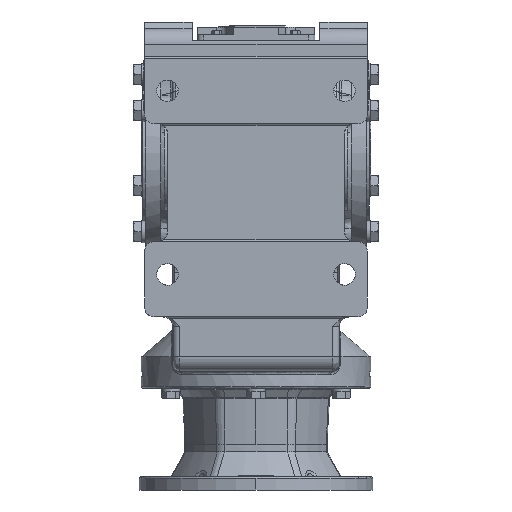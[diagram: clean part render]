
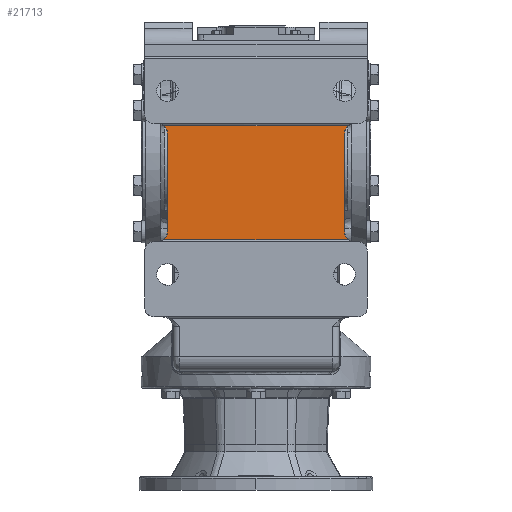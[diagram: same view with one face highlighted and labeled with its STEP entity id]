
A CAD part, front view. The second image highlights one B-rep face of the part: STEP entity #21713.
In plain terms, the highlighted planar face has unit normal (0, -1, 0).
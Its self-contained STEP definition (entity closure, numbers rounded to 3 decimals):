
#13203 = AXIS2_PLACEMENT_3D ( 'NONE', #55642, #55643, #55644 ) ;
#13211 = AXIS2_PLACEMENT_3D ( 'NONE', #55694, #55695, #55696 ) ;
#13213 = AXIS2_PLACEMENT_3D ( 'NONE', #55699, #55700, #55701 ) ;
#15834 = EDGE_CURVE ( 'NONE', #54400, #22197, #86642, .T. ) ;
#15856 = EDGE_CURVE ( 'NONE', #54396, #54400, #86657, .T. ) ;
#15858 = EDGE_CURVE ( 'NONE', #54396, #54422, #86660, .T. ) ;
#15860 = EDGE_CURVE ( 'NONE', #54422, #54424, #86658, .T. ) ;
#15863 = EDGE_CURVE ( 'NONE', #54424, #54426, #86663, .T. ) ;
#21713 = ADVANCED_FACE ( 'NONE', ( #27156 ), #73052, .F. ) ;
#22197 = VERTEX_POINT ( 'NONE', #84482 ) ;
#22200 = VERTEX_POINT ( 'NONE', #84479 ) ;
#27156 = FACE_OUTER_BOUND ( 'NONE', #51284, .T. ) ;
#34905 = CARTESIAN_POINT ( 'NONE',  ( 135., -310., 30. ) ) ;
#34907 = CARTESIAN_POINT ( 'NONE',  ( 135., -310., -120. ) ) ;
#34915 = CARTESIAN_POINT ( 'NONE',  ( -141., -310., 42. ) ) ;
#34919 = CARTESIAN_POINT ( 'NONE',  ( 141., -310., 42. ) ) ;
#34920 = CARTESIAN_POINT ( 'NONE',  ( -135., -310., 30. ) ) ;
#41169 = AXIS2_PLACEMENT_3D ( 'NONE', #73047, #73055, #73056 ) ;
#51284 = EDGE_LOOP ( 'NONE', ( #65648, #65651, #65653, #65655, #65657, #65659, #65661, #65665 ) ) ;
#54396 = VERTEX_POINT ( 'NONE', #34905 ) ;
#54400 = VERTEX_POINT ( 'NONE', #34907 ) ;
#54422 = VERTEX_POINT ( 'NONE', #34919 ) ;
#54424 = VERTEX_POINT ( 'NONE', #34915 ) ;
#54426 = VERTEX_POINT ( 'NONE', #34920 ) ;
#55642 = CARTESIAN_POINT ( 'NONE',  ( 150., -310., -120. ) ) ;
#55643 = DIRECTION ( 'NONE',  ( 0., -1., 0. ) ) ;
#55644 = DIRECTION ( 'NONE',  ( 0., 0., 1. ) ) ;
#55681 = CARTESIAN_POINT ( 'NONE',  ( 135., -310., 0. ) ) ;
#55682 = DIRECTION ( 'NONE',  ( 0., 0., -1. ) ) ;
#55686 = DIRECTION ( 'NONE',  ( -1., 0., 0. ) ) ;
#55693 = CARTESIAN_POINT ( 'NONE',  ( -621.774, -310., 42. ) ) ;
#55694 = CARTESIAN_POINT ( 'NONE',  ( 150., -310., 30. ) ) ;
#55695 = DIRECTION ( 'NONE',  ( 0., 1., 0. ) ) ;
#55696 = DIRECTION ( 'NONE',  ( 0., 0., -1. ) ) ;
#55699 = CARTESIAN_POINT ( 'NONE',  ( -150., -310., 30. ) ) ;
#55700 = DIRECTION ( 'NONE',  ( 0., 1., 0. ) ) ;
#55701 = DIRECTION ( 'NONE',  ( 0., 0., -1. ) ) ;
#65648 = ORIENTED_EDGE ( 'NONE', *, *, #71660, .F. ) ;
#65651 = ORIENTED_EDGE ( 'NONE', *, *, #85701, .F. ) ;
#65653 = ORIENTED_EDGE ( 'NONE', *, *, #15834, .F. ) ;
#65655 = ORIENTED_EDGE ( 'NONE', *, *, #15856, .F. ) ;
#65657 = ORIENTED_EDGE ( 'NONE', *, *, #15858, .T. ) ;
#65659 = ORIENTED_EDGE ( 'NONE', *, *, #15860, .T. ) ;
#65661 = ORIENTED_EDGE ( 'NONE', *, *, #15863, .T. ) ;
#65665 = ORIENTED_EDGE ( 'NONE', *, *, #71994, .F. ) ;
#71660 = EDGE_CURVE ( 'NONE', #22200, #80775, #78898, .T. ) ;
#71994 = EDGE_CURVE ( 'NONE', #80775, #54426, #79264, .T. ) ;
#73047 = CARTESIAN_POINT ( 'NONE',  ( 621.774, -310., -235. ) ) ;
#73052 = PLANE ( 'NONE',  #41169 ) ;
#73055 = DIRECTION ( 'NONE',  ( 0., 1., 0. ) ) ;
#73056 = DIRECTION ( 'NONE',  ( 0., 0., 1. ) ) ;
#76322 = CARTESIAN_POINT ( 'NONE',  ( -135., -310., 0. ) ) ;
#76325 = DIRECTION ( 'NONE',  ( 0., 0., 1. ) ) ;
#77499 = CARTESIAN_POINT ( 'NONE',  ( -135., -310., -120. ) ) ;
#78898 = CIRCLE ( 'NONE', #81430, 15. ) ;
#78972 = CARTESIAN_POINT ( 'NONE',  ( 621.774, -310., -132. ) ) ;
#79005 = DIRECTION ( 'NONE',  ( -1., 0., 0. ) ) ;
#79264 = LINE ( 'NONE', #76322, #79266 ) ;
#79266 = VECTOR ( 'NONE', #76325, 1000. ) ;
#79471 = LINE ( 'NONE', #78972, #79473 ) ;
#79473 = VECTOR ( 'NONE', #79005, 1000. ) ;
#79574 = CARTESIAN_POINT ( 'NONE',  ( -150., -310., -120. ) ) ;
#79575 = DIRECTION ( 'NONE',  ( 0., -1., 0. ) ) ;
#79576 = DIRECTION ( 'NONE',  ( 0., 0., 1. ) ) ;
#80775 = VERTEX_POINT ( 'NONE', #77499 ) ;
#81430 = AXIS2_PLACEMENT_3D ( 'NONE', #79574, #79575, #79576 ) ;
#84479 = CARTESIAN_POINT ( 'NONE',  ( -141., -310., -132. ) ) ;
#84482 = CARTESIAN_POINT ( 'NONE',  ( 141., -310., -132. ) ) ;
#85701 = EDGE_CURVE ( 'NONE', #22197, #22200, #79471, .T. ) ;
#86642 = CIRCLE ( 'NONE', #13203, 15. ) ;
#86657 = LINE ( 'NONE', #55681, #86661 ) ;
#86658 = LINE ( 'NONE', #55693, #86664 ) ;
#86660 = CIRCLE ( 'NONE', #13211, 15. ) ;
#86661 = VECTOR ( 'NONE', #55682, 1000. ) ;
#86663 = CIRCLE ( 'NONE', #13213, 15. ) ;
#86664 = VECTOR ( 'NONE', #55686, 1000. ) ;
